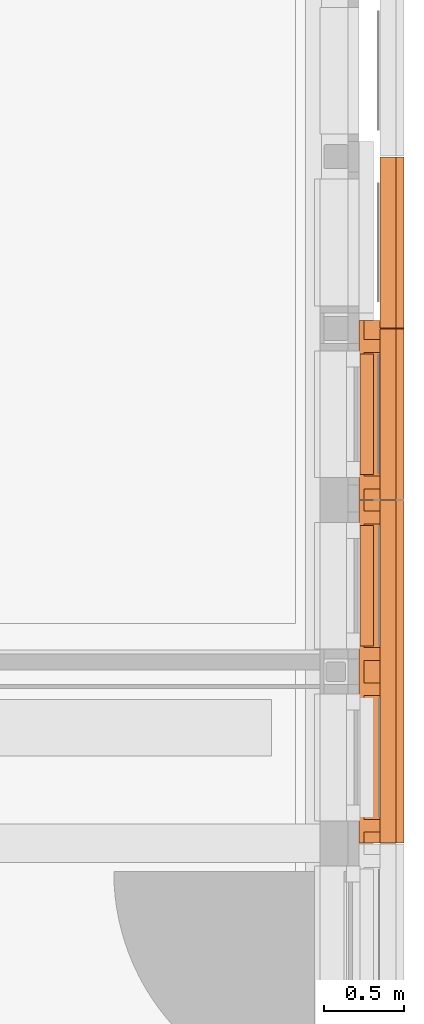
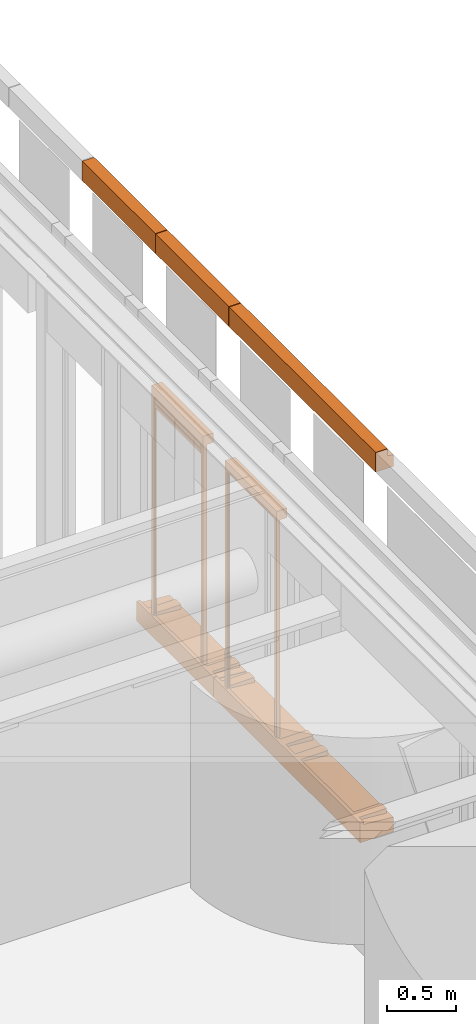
# One storey, part 107 of 128: 7 proxies.
"""IFC2X3 building model written with IfcOpenShell, lengths in millimetres."""

from ifc_helpers import new_model, entity, si_unit, converted_unit, derived_unit, direction, frame, frame_2d, origin, place, context, subcontext, project, spatial, polyline, circle_curve, parameter, trimmed, segment, composite_curve, rectangle, outline, extrude, source, transform, mapped, material, material_list, type_object, type_shapes, element, save


model = new_model("IFC2X3")

# Units and contexts
model_context = context("Model", 3, precision=0.01, world=origin(), true_north=direction((6.123031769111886e-17, 1.0)))
body_context = subcontext(model_context, "Body", "Model", "MODEL_VIEW")
ifc_project = project(units=[si_unit("LENGTHUNIT", "METRE", prefix="MILLI"), si_unit("AREAUNIT", "SQUARE_METRE"), si_unit("VOLUMEUNIT", "CUBIC_METRE"), converted_unit("PLANEANGLEUNIT", "DEGREE", entity("IfcRatioMeasure", 0.017453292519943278), si_unit("PLANEANGLEUNIT", "RADIAN"), dimensions=[0, 0, 0, 0, 0, 0, 0]), si_unit("MASSUNIT", "GRAM", prefix="KILO"), derived_unit("MASSDENSITYUNIT", [(si_unit("MASSUNIT", "GRAM", prefix="KILO"), 1), (si_unit("LENGTHUNIT", "METRE"), -3)]), derived_unit("IONCONCENTRATIONUNIT", [(si_unit("MASSUNIT", "GRAM", prefix="KILO"), 1), (si_unit("LENGTHUNIT", "METRE"), -3)]), derived_unit("MOMENTOFINERTIAUNIT", [(si_unit("LENGTHUNIT", "METRE"), 4)]), si_unit("TIMEUNIT", "SECOND"), si_unit("FREQUENCYUNIT", "HERTZ"), si_unit("THERMODYNAMICTEMPERATUREUNIT", "DEGREE_CELSIUS"), derived_unit("THERMALTRANSMITTANCEUNIT", [(si_unit("MASSUNIT", "GRAM", prefix="KILO"), 1), (si_unit("THERMODYNAMICTEMPERATUREUNIT", "KELVIN"), -1), (si_unit("TIMEUNIT", "SECOND"), -3)]), derived_unit("THERMALCONDUCTANCEUNIT", [(si_unit("MASSUNIT", "GRAM", prefix="KILO"), 1), (si_unit("THERMODYNAMICTEMPERATUREUNIT", "KELVIN"), -1), (si_unit("TIMEUNIT", "SECOND"), -3), (si_unit("LENGTHUNIT", "METRE"), 1)]), derived_unit("VOLUMETRICFLOWRATEUNIT", [(si_unit("LENGTHUNIT", "METRE"), 3), (si_unit("TIMEUNIT", "SECOND"), -1)]), derived_unit("MASSFLOWRATEUNIT", [(si_unit("MASSUNIT", "GRAM", prefix="KILO"), 1), (si_unit("TIMEUNIT", "SECOND"), -1)]), derived_unit("ROTATIONALFREQUENCYUNIT", [(si_unit("TIMEUNIT", "SECOND"), -1)]), si_unit("ELECTRICCURRENTUNIT", "AMPERE"), si_unit("ELECTRICVOLTAGEUNIT", "VOLT"), si_unit("POWERUNIT", "WATT"), si_unit("FORCEUNIT", "NEWTON", prefix="KILO"), si_unit("ILLUMINANCEUNIT", "LUX"), si_unit("LUMINOUSFLUXUNIT", "LUMEN"), si_unit("LUMINOUSINTENSITYUNIT", "CANDELA"), derived_unit("USERDEFINED", [(si_unit("MASSUNIT", "GRAM", prefix="KILO"), -1), (si_unit("LENGTHUNIT", "METRE"), -2), (si_unit("TIMEUNIT", "SECOND"), 3), (si_unit("LUMINOUSFLUXUNIT", "LUMEN"), 1)]), derived_unit("USERDEFINED", [(si_unit("MASSUNIT", "GRAM", prefix="KILO"), 1), (si_unit("TIMEUNIT", "SECOND"), -3), (si_unit("LENGTHUNIT", "METRE"), 3), (si_unit("ELECTRICCURRENTUNIT", "AMPERE"), -2)]), derived_unit("SOUNDPOWERUNIT", [(si_unit("MASSUNIT", "GRAM", prefix="KILO"), 1), (si_unit("TIMEUNIT", "SECOND"), -3), (si_unit("LENGTHUNIT", "METRE"), 2)]), derived_unit("SOUNDPRESSUREUNIT", [(si_unit("MASSUNIT", "GRAM", prefix="KILO"), 1), (si_unit("LENGTHUNIT", "METRE"), -1), (si_unit("TIMEUNIT", "SECOND"), -2)]), derived_unit("LINEARVELOCITYUNIT", [(si_unit("LENGTHUNIT", "METRE"), 1), (si_unit("TIMEUNIT", "SECOND"), -1)]), si_unit("PRESSUREUNIT", "PASCAL"), derived_unit("USERDEFINED", [(si_unit("MASSUNIT", "GRAM", prefix="KILO"), 1), (si_unit("LENGTHUNIT", "METRE"), -2), (si_unit("TIMEUNIT", "SECOND"), -2)]), derived_unit("LINEARFORCEUNIT", [(si_unit("MASSUNIT", "GRAM", prefix="KILO"), 1), (si_unit("TIMEUNIT", "SECOND"), -2)]), derived_unit("PLANARFORCEUNIT", [(si_unit("MASSUNIT", "GRAM", prefix="KILO"), 1), (si_unit("LENGTHUNIT", "METRE"), -1), (si_unit("TIMEUNIT", "SECOND"), -2)]), derived_unit("SPECIFICHEATCAPACITYUNIT", [(si_unit("THERMODYNAMICTEMPERATUREUNIT", "KELVIN"), -1), (si_unit("LENGTHUNIT", "METRE"), 2), (si_unit("TIMEUNIT", "SECOND"), -2)]), derived_unit("HEATINGVALUEUNIT", [(si_unit("LENGTHUNIT", "METRE"), 2), (si_unit("TIMEUNIT", "SECOND"), -2)]), derived_unit("VAPORPERMEABILITYUNIT", [(si_unit("LENGTHUNIT", "METRE"), -1), (si_unit("TIMEUNIT", "SECOND"), 1)]), derived_unit("DYNAMICVISCOSITYUNIT", [(si_unit("MASSUNIT", "GRAM", prefix="KILO"), 1), (si_unit("TIMEUNIT", "SECOND"), -1), (si_unit("LENGTHUNIT", "METRE"), -1)]), derived_unit("THERMALEXPANSIONCOEFFICIENTUNIT", [(si_unit("THERMODYNAMICTEMPERATUREUNIT", "KELVIN"), -1)]), derived_unit("MODULUSOFELASTICITYUNIT", [(si_unit("MASSUNIT", "GRAM", prefix="KILO"), 1), (si_unit("LENGTHUNIT", "METRE"), -1), (si_unit("TIMEUNIT", "SECOND"), -2)]), derived_unit("ISOTHERMALMOISTURECAPACITYUNIT", [(si_unit("LENGTHUNIT", "METRE"), 3), (si_unit("MASSUNIT", "GRAM", prefix="KILO"), -1)]), derived_unit("MOISTUREDIFFUSIVITYUNIT", [(si_unit("TIMEUNIT", "SECOND"), -1), (si_unit("LENGTHUNIT", "METRE"), 2)])], contexts=[model_context])

# Site, building, storey
site_placement = place(None, frame((0.0, 300.0, 0.0)))
site = spatial("IfcSite", under=ifc_project, at=site_placement, Name="<Kadastrale nummers>", CompositionType="ELEMENT")
building_placement = place(site_placement, origin())
building = spatial("IfcBuilding", under=site, at=building_placement, CompositionType="ELEMENT")
storey_placement = place(building_placement, frame((0.0, 0.0, 3560.0000331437)))
storey = spatial("IfcBuildingStorey", under=building, at=storey_placement, Name="01 eerste verdieping", CompositionType="ELEMENT", Elevation=3560.0000331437)

# Proxies
ifc_material_1 = material(Name="ISR_Beton_prefab")
building_element_proxy_type_1 = type_object("IfcBuildingElementProxyType", Name="29_DAT_Prefab betonband afgeschuind:29_DAT_Prefab betonband afgeschuind", PredefinedType="NOTDEFINED", material=ifc_material_1)
shared_shape_1 = source(origin(), body_context, "Body", "SweptSolid", [
    extrude(outline(polyline([(-94.16666666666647, -83.33333333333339), (80.83333333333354, -83.33333333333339), (80.83333333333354, 16.66666666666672), (18.33333333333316, 16.666666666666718), (8.333333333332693, 66.66666666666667), (-94.16666666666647, 66.66666666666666), (-94.16666666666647, -83.33333333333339)])), frame((0.0, 16.66666666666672, -18.33333333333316), z_axis=(1.0, 0.0, 0.0), x_axis=(0.0, 0.0, 1.0)), (0.0, 0.0, 1.0), 1063.9999999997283),
])
type_shapes(building_element_proxy_type_1, [shared_shape_1])
for number, where, z_axis, x_axis, name in (
    (1, (48975.0, 33043.0, 4077.4999668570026), (0.0, 0.0, 1.0), (0.0, 1.0, 0.0), "29_DAT_Prefab betonband afgeschuind:29_DAT_Prefab betonband afgeschuind"),
    (2, (48975.0, 31973.0, 4077.4999668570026), (0.0, 0.0, 1.0), (0.0, 1.0, 0.0), "29_DAT_Prefab betonband afgeschuind:29_DAT_Prefab betonband afgeschuind"),
):
    element("IfcBuildingElementProxy", number, at=place(storey_placement, frame(where, z_axis=z_axis, x_axis=x_axis)), inside=storey, type_object=building_element_proxy_type_1, material=ifc_material_1, Name=name, ObjectType="29_DAT_Prefab betonband afgeschuind:29_DAT_Prefab betonband afgeschuind", context=body_context, shape_type="MappedRepresentation", body=[
        mapped(shared_shape_1, transform((0.0, 0.0, 0.0), scale=1.0)),
    ])
building_element_proxy_type_2 = type_object("IfcBuildingElementProxyType", Name="29_DAT_Prefab betonnen waterslag lang:09", PredefinedType="NOTDEFINED", material=ifc_material_1)
shared_shape_2 = source(origin(), body_context, "Body", "SweptSolid", [
    extrude(outline(polyline([(-16.052237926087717, -115.0), (26.113434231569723, -115.0), (5.9910416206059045, 115.0), (-16.052237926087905, 115.0), (-16.052237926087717, -115.0)])), frame((917.0, 75.0, -16.05223792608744), z_axis=(1.0, 0.0, 0.0), x_axis=(0.0, 0.0, -1.0)), (0.0, 0.0, 1.0), 79.99999999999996),
    extrude(outline(polyline([(-16.052237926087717, -115.0), (26.113434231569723, -115.0), (5.9910416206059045, 115.0), (-16.052237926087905, 115.0), (-16.052237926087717, -115.0)])), frame((67.0, 75.0, -16.05223792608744), z_axis=(1.0, 0.0, 0.0), x_axis=(0.0, 0.0, -1.0)), (0.0, 0.0, 1.0), 80.00000000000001),
    extrude(outline(composite_curve([segment(polyline([(-140.0, -95.7340207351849), (-110.0, -95.7340207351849)]), True, "CONTINUOUS"), segment(polyline([(-110.0, -95.7340207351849), (-110.0, -73.7340207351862)]), True, "CONTINUOUS"), segment(polyline([(-110.0, -73.7340207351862), (140.0, -51.861854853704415)]), True, "CONTINUOUS"), segment(polyline([(140.0, -51.86185485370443), (140.0, 79.26597926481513)]), True, "CONTINUOUS"), segment(polyline([(140.0, 79.26597926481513), (115.0, 79.26597926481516)]), True, "CONTINUOUS"), segment(trimmed(circle_curve(frame_2d((110.0, 79.26597926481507), x_axis=(1.0, 0.0)), 5.000000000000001), [parameter(179.99999999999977)], [parameter(4.0711099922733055e-13)], True, "PARAMETER"), False, "CONTINUOUS"), segment(polyline([(105.0, 79.26597926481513), (-140.0, 79.26597926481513)]), True, "CONTINUOUS"), segment(polyline([(-140.0, 79.26597926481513), (-140.0, -95.7340207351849)]), True, "CONTINUOUS")], self_intersect=False)), frame((0.0, 80.0, -95.73402073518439), z_axis=(1.0, 0.0, 0.0), x_axis=(0.0, -1.0, 0.0)), (0.0, 0.0, 1.0), 1117.0000000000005),
])
type_shapes(building_element_proxy_type_2, [shared_shape_2])
proxy_1_placement = place(storey_placement, frame((48965.0, 31973.0, 890.0000018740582), z_axis=(0.0, 0.0, 1.0), x_axis=(0.0, 1.0, 0.0)))
element("IfcBuildingElementProxy", 3, at=proxy_1_placement, inside=storey, type_object=building_element_proxy_type_2, material=ifc_material_1, Name="29_DAT_Prefab betonnen waterslag lang:09", ObjectType="29_DAT_Prefab betonnen waterslag lang:09", context=body_context, shape_type="MappedRepresentation", body=[
    mapped(shared_shape_2, transform((0.0, 0.0, 0.0), scale=1.0)),
])
ifc_material_2 = material(Name="STAAL_RAL 7006")
ifc_material_3 = material(Name="<Unnamed>")
ifc_material_list = material_list([ifc_material_2, ifc_material_3])
building_element_proxy_type_3 = type_object("IfcBuildingElementProxyType", Name="31_DAT_Screen_zonwering_bak85:31_DAT_Screen_zonwering_bak85", PredefinedType="NOTDEFINED", material=ifc_material_list)
shared_shape_3 = source(origin(), body_context, "Body", "SweptSolid", [
    extrude(outline(polyline([(-60.69864841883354, -53.573897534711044), (20.695945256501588, -53.573897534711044), (20.695945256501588, 1.1216926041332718), (22.501351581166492, 1.1216926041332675), (22.501351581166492, 24.626102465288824), (17.501351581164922, 24.626102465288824), (17.501351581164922, 27.826102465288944), (-60.69864841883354, 27.826102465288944), (-60.69864841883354, -53.573897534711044)])), frame((748.0, -29.62610246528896, 2772.5013515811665), z_axis=(1.0, 0.0, 0.0), x_axis=(0.0, 0.0, -1.0)), (0.0, 0.0, 1.0), 1.9999999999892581),
    extrude(outline(polyline([(-55.832432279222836, -51.08259835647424), (29.167567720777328, -51.08259835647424), (29.167567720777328, 5.412991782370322), (27.362161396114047, 5.412991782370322), (27.362161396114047, -49.28259835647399), (-54.032432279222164, -49.28259835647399), (-54.032432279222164, 32.117401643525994), (24.16756772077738, 32.117401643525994), (24.16756772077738, 28.91740164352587), (29.167567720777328, 28.91740164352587), (29.167567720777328, 33.917401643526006), (-55.832432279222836, 33.917401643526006), (-55.832432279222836, -51.08259835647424)])), frame((0.0, -33.917401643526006, 2779.1675677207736), z_axis=(1.0, 0.0, 0.0), x_axis=(0.0, 0.0, -1.0)), (0.0, 0.0, 1.0), 749.9999999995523),
    extrude(outline(polyline([(-60.69864841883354, -53.573897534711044), (20.695945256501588, -53.573897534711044), (20.695945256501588, 1.1216926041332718), (22.501351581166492, 1.1216926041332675), (22.501351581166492, 24.626102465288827), (17.501351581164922, 24.626102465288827), (17.501351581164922, 27.826102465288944), (-60.69864841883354, 27.826102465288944), (-60.69864841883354, -53.573897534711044)])), frame((0.0, -29.62610246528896, 2772.5013515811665), z_axis=(1.0, 0.0, 0.0), x_axis=(0.0, 0.0, -1.0)), (0.0, 0.0, 1.0), 1.999999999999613),
    extrude(rectangle(XDim=709.9999999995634, YDim=1.163311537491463, at=frame_2d((-2.842170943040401e-14, -2.1094237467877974e-15), x_axis=(1.0, 0.0))), frame((375.0, -20.037293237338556, 2676.0)), (0.0, 0.0, 1.0), 73.99999999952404),
    extrude(outline(composite_curve([segment(polyline([(-7.502327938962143, -23.023758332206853), (7.497672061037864, -23.023758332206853)]), True, "CONTINUOUS"), segment(trimmed(circle_curve(frame_2d((7.497672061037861, -21.523758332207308), x_axis=(0.0, -1.0)), 1.4999999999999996), [parameter(359.99999999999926)], [parameter(90.00000000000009)], True, "PARAMETER"), True, "CONTINUOUS"), segment(polyline([(8.997672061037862, -21.523758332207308), (8.997672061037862, 8.976241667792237)]), True, "CONTINUOUS"), segment(trimmed(circle_curve(frame_2d((5.99767206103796, 8.976241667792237), x_axis=(0.0, -1.0)), 3.0), [parameter(90.00000000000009)], [parameter(172.84454900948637)], True, "PARAMETER"), True, "CONTINUOUS"), segment(polyline([(6.371357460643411, 11.952877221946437), (2.232090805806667, 12.470504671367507)]), True, "CONTINUOUS"), segment(trimmed(circle_curve(frame_2d((2.1399803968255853, 11.733933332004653), x_axis=(0.0, -1.0)), 0.7423083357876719), [parameter(172.87199730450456)], [parameter(323.5235343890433)], True, "PARAMETER"), True, "CONTINUOUS"), segment(trimmed(circle_curve(frame_2d((-0.0023279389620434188, 8.976241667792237), x_axis=(0.0, -1.0)), 2.75), [parameter(217.47327986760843)], [parameter(141.78969998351)], True, "PARAMETER"), False, "CONTINUOUS"), segment(trimmed(circle_curve(frame_2d((-2.144636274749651, 11.733933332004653), x_axis=(0.0, -1.0)), 0.7423083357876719), [parameter(39.207114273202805)], [parameter(187.12800269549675)], True, "PARAMETER"), True, "CONTINUOUS"), segment(polyline([(-2.2367466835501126, 12.470504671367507), (-6.376013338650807, 11.952877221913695)]), True, "CONTINUOUS"), segment(trimmed(circle_curve(frame_2d((-6.002327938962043, 8.976241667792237), x_axis=(0.0, -1.0)), 3.0), [parameter(187.1554509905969)], [parameter(269.9999999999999)], True, "PARAMETER"), True, "CONTINUOUS"), segment(polyline([(-9.002327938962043, 8.976241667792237), (-9.002327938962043, -21.523758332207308)]), True, "CONTINUOUS"), segment(trimmed(circle_curve(frame_2d((-7.502327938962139, -21.523758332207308), x_axis=(0.0, -1.0)), 1.5000000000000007), [parameter(269.9999999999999)], [parameter(359.9999999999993)], True, "PARAMETER"), True, "CONTINUOUS")], self_intersect=False)), frame((20.0, -19.997672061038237, 2669.023758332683), z_axis=(1.0, 0.0, 0.0), x_axis=(0.0, 1.0, 0.0)), (0.0, 0.0, 1.0), 709.9999999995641),
    extrude(outline(polyline([(-14.638298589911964, -16.231574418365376), (-13.138298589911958, -16.231574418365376), (-13.138298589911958, 12.232729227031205), (-6.116685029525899, 12.232729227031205), (-6.116685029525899, -6.231574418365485), (-1.116685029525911, -6.231574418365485), (-1.116685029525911, -4.769580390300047), (-4.579546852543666, -4.769580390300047), (-4.579546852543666, 12.23272922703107), (13.86611127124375, 12.23272922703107), (13.86611127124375, -4.769580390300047), (10.36170141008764, -4.769580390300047), (10.36170141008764, -6.2315744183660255), (15.36170141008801, -6.2315744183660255), (15.36170141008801, 13.768425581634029), (-14.638298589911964, 13.768425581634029), (-14.638298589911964, -16.231574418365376)])), frame((736.2315744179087, -14.638298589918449, 800.0), z_axis=(0.0, 0.0, 1.0), x_axis=(0.0, -1.0, 0.0)), (0.0, 0.0, 1.0), 1950.0000000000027),
    extrude(outline(polyline([(-16.231574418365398, -14.638298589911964), (13.768425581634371, -14.638298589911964), (13.76842558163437, 15.361701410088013), (-6.231574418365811, 15.361701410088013), (-6.231574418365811, 10.361701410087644), (-4.769580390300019, 10.361701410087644), (-4.769580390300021, 13.866111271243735), (12.2327292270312, 13.866111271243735), (12.2327292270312, -4.57954685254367), (-4.769580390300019, -4.57954685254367), (-4.769580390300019, -1.1166850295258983), (-6.231574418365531, -1.1166850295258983), (-6.231574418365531, -6.116685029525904), (12.232729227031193, -6.116685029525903), (12.232729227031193, -13.138298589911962), (-16.231574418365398, -13.138298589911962), (-16.231574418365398, -14.638298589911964)])), frame((13.768425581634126, -14.638298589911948, 800.0), z_axis=(0.0, 0.0, 1.0), x_axis=(-1.0, 0.0, 0.0)), (0.0, 0.0, 1.0), 1950.0000000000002),
])
type_shapes(building_element_proxy_type_3, [shared_shape_3])
proxy_2_placement = place(storey_placement, frame((48751.0, 32130.0, 100.00000187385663), z_axis=(0.0, 0.0, 1.0), x_axis=(0.0, 1.0, 0.0)))
element("IfcBuildingElementProxy", 4, at=proxy_2_placement, inside=storey, type_object=building_element_proxy_type_3, material=ifc_material_list, Name="31_DAT_Screen_zonwering_bak85:31_DAT_Screen_zonwering_bak85", ObjectType="31_DAT_Screen_zonwering_bak85:31_DAT_Screen_zonwering_bak85", context=body_context, shape_type="MappedRepresentation", body=[
    mapped(shared_shape_3, transform((0.0, 0.0, 0.0), scale=1.0)),
])
building_element_proxy_type_4 = type_object("IfcBuildingElementProxyType", Name="31_DAT_Screen_zonwering_bak85:31_DAT_Screen_zonwering_bak85", PredefinedType="NOTDEFINED", material=ifc_material_list)
shared_shape_4 = source(origin(), body_context, "Body", "SweptSolid", [
    extrude(outline(polyline([(-60.69864841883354, -53.573897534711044), (20.695945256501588, -53.573897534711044), (20.695945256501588, 1.1216926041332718), (22.501351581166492, 1.1216926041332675), (22.501351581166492, 24.626102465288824), (17.501351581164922, 24.626102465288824), (17.501351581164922, 27.826102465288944), (-60.69864841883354, 27.826102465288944), (-60.69864841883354, -53.573897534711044)])), frame((748.0, -29.62610246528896, 2752.501351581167), z_axis=(1.0, 0.0, 0.0), x_axis=(0.0, 0.0, -1.0)), (0.0, 0.0, 1.0), 1.9999999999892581),
    extrude(outline(polyline([(-55.83243227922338, -51.08259835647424), (29.167567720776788, -51.08259835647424), (29.167567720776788, 5.412991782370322), (27.362161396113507, 5.412991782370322), (27.362161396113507, -49.28259835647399), (-54.032432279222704, -49.28259835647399), (-54.032432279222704, 32.117401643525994), (24.16756772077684, 32.117401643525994), (24.16756772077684, 28.91740164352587), (29.167567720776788, 28.91740164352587), (29.167567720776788, 33.917401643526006), (-55.83243227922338, 33.917401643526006), (-55.83243227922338, -51.08259835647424)])), frame((0.0, -33.917401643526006, 2759.1675677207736), z_axis=(1.0, 0.0, 0.0), x_axis=(0.0, 0.0, -1.0)), (0.0, 0.0, 1.0), 749.9999999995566),
    extrude(outline(polyline([(-60.69864841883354, -53.573897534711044), (20.695945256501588, -53.573897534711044), (20.695945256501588, 1.1216926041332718), (22.501351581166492, 1.1216926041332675), (22.501351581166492, 24.626102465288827), (17.501351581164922, 24.626102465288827), (17.501351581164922, 27.826102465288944), (-60.69864841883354, 27.826102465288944), (-60.69864841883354, -53.573897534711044)])), frame((0.0, -29.62610246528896, 2752.501351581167), z_axis=(1.0, 0.0, 0.0), x_axis=(0.0, 0.0, -1.0)), (0.0, 0.0, 1.0), 1.999999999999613),
    extrude(rectangle(XDim=709.9999999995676, YDim=1.163311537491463, at=frame_2d((0.0, -2.1094237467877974e-15), x_axis=(1.0, 0.0))), frame((375.0, -20.037293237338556, 2730.0)), (0.0, 0.0, 1.0), 61.996041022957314),
    extrude(outline(composite_curve([segment(polyline([(-7.502327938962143, -23.023758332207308), (7.497672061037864, -23.023758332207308)]), True, "CONTINUOUS"), segment(trimmed(circle_curve(frame_2d((7.497672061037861, -21.523758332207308), x_axis=(0.0, -1.0)), 1.4999999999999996), [parameter(359.99999999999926)], [parameter(90.00000000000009)], True, "PARAMETER"), True, "CONTINUOUS"), segment(polyline([(8.997672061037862, -21.523758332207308), (8.997672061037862, 8.976241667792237)]), True, "CONTINUOUS"), segment(trimmed(circle_curve(frame_2d((5.99767206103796, 8.976241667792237), x_axis=(0.0, -1.0)), 3.0), [parameter(90.00000000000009)], [parameter(172.84454900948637)], True, "PARAMETER"), True, "CONTINUOUS"), segment(polyline([(6.371357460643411, 11.952877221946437), (2.232090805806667, 12.470504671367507)]), True, "CONTINUOUS"), segment(trimmed(circle_curve(frame_2d((2.1399803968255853, 11.733933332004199), x_axis=(0.0, -1.0)), 0.7423083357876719), [parameter(172.87199730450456)], [parameter(323.5235343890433)], True, "PARAMETER"), True, "CONTINUOUS"), segment(trimmed(circle_curve(frame_2d((-0.0023279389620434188, 8.976241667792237), x_axis=(0.0, -1.0)), 2.75), [parameter(217.47327986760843)], [parameter(141.78969998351)], True, "PARAMETER"), False, "CONTINUOUS"), segment(trimmed(circle_curve(frame_2d((-2.144636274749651, 11.733933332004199), x_axis=(0.0, -1.0)), 0.7423083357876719), [parameter(39.207114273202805)], [parameter(187.12800269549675)], True, "PARAMETER"), True, "CONTINUOUS"), segment(polyline([(-2.2367466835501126, 12.470504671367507), (-6.376013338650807, 11.95287722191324)]), True, "CONTINUOUS"), segment(trimmed(circle_curve(frame_2d((-6.002327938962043, 8.976241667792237), x_axis=(0.0, -1.0)), 3.0), [parameter(187.1554509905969)], [parameter(269.9999999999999)], True, "PARAMETER"), True, "CONTINUOUS"), segment(polyline([(-9.002327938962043, 8.976241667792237), (-9.002327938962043, -21.523758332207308)]), True, "CONTINUOUS"), segment(trimmed(circle_curve(frame_2d((-7.502327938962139, -21.523758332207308), x_axis=(0.0, -1.0)), 1.5000000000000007), [parameter(269.9999999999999)], [parameter(359.9999999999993)], True, "PARAMETER"), True, "CONTINUOUS")], self_intersect=False)), frame((20.0, -19.997672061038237, 2785.0197993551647), z_axis=(1.0, 0.0, 0.0), x_axis=(0.0, 1.0, 0.0)), (0.0, 0.0, 1.0), 709.9999999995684),
    extrude(outline(polyline([(-14.638298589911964, -16.231574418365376), (-13.138298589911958, -16.231574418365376), (-13.138298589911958, 12.232729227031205), (-6.116685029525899, 12.232729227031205), (-6.116685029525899, -6.231574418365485), (-1.116685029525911, -6.231574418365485), (-1.116685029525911, -4.769580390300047), (-4.579546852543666, -4.769580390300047), (-4.579546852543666, 12.23272922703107), (13.86611127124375, 12.23272922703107), (13.86611127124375, -4.769580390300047), (10.36170141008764, -4.769580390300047), (10.36170141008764, -6.2315744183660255), (15.36170141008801, -6.2315744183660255), (15.36170141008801, 13.768425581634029), (-14.638298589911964, 13.768425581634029), (-14.638298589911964, -16.231574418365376)])), frame((736.2315744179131, -14.638298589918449, 800.0), z_axis=(0.0, 0.0, 1.0), x_axis=(0.0, -1.0, 0.0)), (0.0, 0.0, 1.0), 1930.000000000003),
    extrude(outline(polyline([(-16.231574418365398, -14.638298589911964), (13.768425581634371, -14.638298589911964), (13.76842558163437, 15.361701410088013), (-6.231574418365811, 15.361701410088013), (-6.231574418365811, 10.361701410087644), (-4.769580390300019, 10.361701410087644), (-4.769580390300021, 13.866111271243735), (12.2327292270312, 13.866111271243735), (12.2327292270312, -4.57954685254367), (-4.769580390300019, -4.57954685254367), (-4.769580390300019, -1.1166850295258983), (-6.231574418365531, -1.1166850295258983), (-6.231574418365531, -6.116685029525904), (12.232729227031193, -6.116685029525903), (12.232729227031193, -13.138298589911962), (-16.231574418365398, -13.138298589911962), (-16.231574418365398, -14.638298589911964)])), frame((13.768425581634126, -14.638298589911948, 800.0), z_axis=(0.0, 0.0, 1.0), x_axis=(-1.0, 0.0, 0.0)), (0.0, 0.0, 1.0), 1930.0000000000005),
])
type_shapes(building_element_proxy_type_4, [shared_shape_4])
proxy_3_placement = place(storey_placement, frame((48751.0, 31060.0, 100.00000187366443), z_axis=(0.0, 0.0, 1.0), x_axis=(0.0, 1.0, 0.0)))
element("IfcBuildingElementProxy", 5, at=proxy_3_placement, inside=storey, type_object=building_element_proxy_type_4, material=ifc_material_list, Name="31_DAT_Screen_zonwering_bak85:31_DAT_Screen_zonwering_bak85", ObjectType="31_DAT_Screen_zonwering_bak85:31_DAT_Screen_zonwering_bak85", context=body_context, shape_type="MappedRepresentation", body=[
    mapped(shared_shape_4, transform((0.0, 0.0, 0.0), scale=1.0)),
])
building_element_proxy_type_5 = type_object("IfcBuildingElementProxyType", Name="29_DAT_Prefab betonnen waterslag lang:29 dubbel 1", PredefinedType="NOTDEFINED", material=ifc_material_1)
shared_shape_5 = source(origin(), body_context, "Body", "SweptSolid", [
    extrude(outline(polyline([(-16.052237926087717, -115.0), (26.113434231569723, -115.0), (5.9910416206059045, 115.0), (-16.052237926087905, 115.0), (-16.052237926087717, -115.0)])), frame((1987.0, 75.0, -16.05223792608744), z_axis=(1.0, 0.0, 0.0), x_axis=(0.0, 0.0, -1.0)), (0.0, 0.0, 1.0), 79.99999999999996),
    extrude(outline(polyline([(-16.052237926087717, -115.0), (26.113434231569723, -115.0), (5.9910416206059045, 115.0), (-16.052237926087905, 115.0), (-16.052237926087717, -115.0)])), frame((1137.0, 75.0, -16.05223792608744), z_axis=(1.0, 0.0, 0.0), x_axis=(0.0, 0.0, -1.0)), (0.0, 0.0, 1.0), 79.99999999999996),
    extrude(outline(polyline([(-16.052237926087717, -115.0), (26.113434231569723, -115.0), (5.9910416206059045, 115.0), (-16.052237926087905, 115.0), (-16.052237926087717, -115.0)])), frame((917.0, 75.0, -16.05223792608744), z_axis=(1.0, 0.0, 0.0), x_axis=(0.0, 0.0, -1.0)), (0.0, 0.0, 1.0), 79.99999999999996),
    extrude(outline(polyline([(-16.052237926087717, -115.0), (26.113434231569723, -115.0), (5.9910416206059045, 115.0), (-16.052237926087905, 115.0), (-16.052237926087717, -115.0)])), frame((67.0, 75.0, -16.05223792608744), z_axis=(1.0, 0.0, 0.0), x_axis=(0.0, 0.0, -1.0)), (0.0, 0.0, 1.0), 80.00000000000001),
    extrude(outline(composite_curve([segment(polyline([(-140.0, -95.7340207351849), (-110.0, -95.7340207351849)]), True, "CONTINUOUS"), segment(polyline([(-110.0, -95.7340207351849), (-110.0, -73.7340207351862)]), True, "CONTINUOUS"), segment(polyline([(-110.0, -73.7340207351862), (140.0, -51.861854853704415)]), True, "CONTINUOUS"), segment(polyline([(140.0, -51.86185485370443), (140.0, 79.26597926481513)]), True, "CONTINUOUS"), segment(polyline([(140.0, 79.26597926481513), (115.0, 79.26597926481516)]), True, "CONTINUOUS"), segment(trimmed(circle_curve(frame_2d((110.0, 79.26597926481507), x_axis=(1.0, 0.0)), 5.000000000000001), [parameter(179.99999999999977)], [parameter(4.0711099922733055e-13)], True, "PARAMETER"), False, "CONTINUOUS"), segment(polyline([(105.0, 79.26597926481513), (-140.0, 79.26597926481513)]), True, "CONTINUOUS"), segment(polyline([(-140.0, 79.26597926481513), (-140.0, -95.7340207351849)]), True, "CONTINUOUS")], self_intersect=False)), frame((0.0, 80.0, -95.73402073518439), z_axis=(1.0, 0.0, 0.0), x_axis=(0.0, -1.0, 0.0)), (0.0, 0.0, 1.0), 2134.0000000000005),
])
type_shapes(building_element_proxy_type_5, [shared_shape_5])
proxy_4_placement = place(storey_placement, frame((48965.0, 29833.0, 890.0000018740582), z_axis=(0.0, 0.0, 1.0), x_axis=(0.0, 1.0, 0.0)))
element("IfcBuildingElementProxy", 6, at=proxy_4_placement, inside=storey, type_object=building_element_proxy_type_5, material=ifc_material_1, Name="29_DAT_Prefab betonnen waterslag lang:29 dubbel 1", ObjectType="29_DAT_Prefab betonnen waterslag lang:29 dubbel 1", context=body_context, shape_type="MappedRepresentation", body=[
    mapped(shared_shape_5, transform((0.0, 0.0, 0.0), scale=1.0)),
])
building_element_proxy_type_6 = type_object("IfcBuildingElementProxyType", Name="29_DAT_Prefab betonband afgeschuind:29_DAT_Prefab betonband afgeschuind", PredefinedType="NOTDEFINED", material=ifc_material_1)
shared_shape_6 = source(origin(), body_context, "Body", "SweptSolid", [
    extrude(outline(polyline([(-94.16666666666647, -83.33333333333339), (80.83333333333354, -83.33333333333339), (80.83333333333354, 16.66666666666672), (18.33333333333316, 16.666666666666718), (8.333333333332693, 66.66666666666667), (-94.16666666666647, 66.66666666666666), (-94.16666666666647, -83.33333333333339)])), frame((0.0, 16.66666666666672, -18.33333333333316), z_axis=(1.0, 0.0, 0.0), x_axis=(0.0, 0.0, 1.0)), (0.0, 0.0, 1.0), 2133.999999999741),
])
type_shapes(building_element_proxy_type_6, [shared_shape_6])
proxy_5_placement = place(storey_placement, frame((48975.0, 29833.0, 4077.499966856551), z_axis=(0.0, 0.0, 1.0), x_axis=(0.0, 1.0, 0.0)))
element("IfcBuildingElementProxy", 7, at=proxy_5_placement, inside=storey, type_object=building_element_proxy_type_6, material=ifc_material_1, Name="29_DAT_Prefab betonband afgeschuind:29_DAT_Prefab betonband afgeschuind", ObjectType="29_DAT_Prefab betonband afgeschuind:29_DAT_Prefab betonband afgeschuind", context=body_context, shape_type="MappedRepresentation", body=[
    mapped(shared_shape_6, transform((0.0, 0.0, 0.0), scale=1.0)),
])

save(model, "model.ifc")
